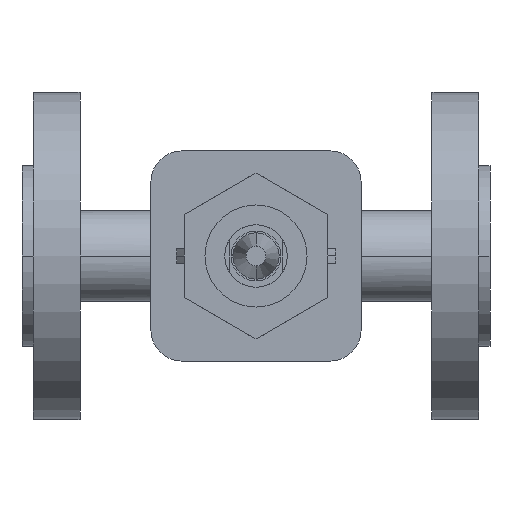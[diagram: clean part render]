
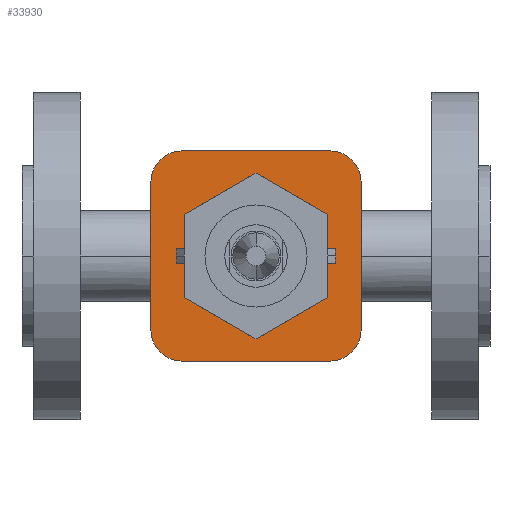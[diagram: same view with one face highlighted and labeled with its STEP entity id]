
A CAD part, front view. The second image highlights one B-rep face of the part: STEP entity #33930.
In plain terms, the highlighted planar face has unit normal (0, -1, 0).
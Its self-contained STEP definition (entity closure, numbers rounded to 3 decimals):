
#9440=CARTESIAN_POINT('',(54.,-62.,0.));
#9450=VERTEX_POINT('',#9440);
#9480=CARTESIAN_POINT('',(75.,-62.,0.));
#9490=DIRECTION('',(0.,-1.,0.));
#9500=DIRECTION('',(-1.,0.,0.));
#9510=AXIS2_PLACEMENT_3D('',#9480,#9490,#9500);
#9520=CIRCLE('',#9510,21.);
#9530=CARTESIAN_POINT('',(96.,-62.,0.));
#9540=VERTEX_POINT('',#9530);
#9550=EDGE_CURVE('',#9540,#9450,#9520,.T.);
#29640=CARTESIAN_POINT('',(41.312,-62.,23.688));
#29650=VERTEX_POINT('',#29640);
#29680=CARTESIAN_POINT('',(41.312,-62.,-11.844));
#29690=DIRECTION('',(0.,0.,-1.));
#29700=VECTOR('',#29690,1.);
#29710=LINE('',#29680,#29700);
#29720=CARTESIAN_POINT('',(41.312,-62.,-23.688));
#29730=VERTEX_POINT('',#29720);
#29740=EDGE_CURVE('',#29650,#29730,#29710,.T.);
#30850=CARTESIAN_POINT('',(51.312,-62.,-23.688));
#30860=DIRECTION('',(0.,-1.,0.));
#30870=DIRECTION('',(0.,0.,-1.));
#30880=AXIS2_PLACEMENT_3D('',#30850,#30860,#30870);
#30890=CIRCLE('',#30880,10.);
#30900=CARTESIAN_POINT('',(51.312,-62.,-33.688));
#30910=VERTEX_POINT('',#30900);
#30920=EDGE_CURVE('',#29730,#30910,#30890,.T.);
#31280=CARTESIAN_POINT('',(98.688,-62.,-33.688));
#31290=VERTEX_POINT('',#31280);
#31340=CARTESIAN_POINT('',(98.688,-62.,-23.688));
#31350=DIRECTION('',(0.,-1.,0.));
#31360=DIRECTION('',(1.,0.,0.));
#31370=AXIS2_PLACEMENT_3D('',#31340,#31350,#31360);
#31380=CIRCLE('',#31370,10.);
#31390=CARTESIAN_POINT('',(108.688,-62.,-23.688));
#31400=VERTEX_POINT('',#31390);
#31410=EDGE_CURVE('',#31290,#31400,#31380,.T.);
#32630=CARTESIAN_POINT('',(108.688,-62.,11.844));
#32640=DIRECTION('',(0.,0.,1.));
#32650=VECTOR('',#32640,1.);
#32660=LINE('',#32630,#32650);
#32670=CARTESIAN_POINT('',(108.688,-62.,23.688));
#32680=VERTEX_POINT('',#32670);
#32690=EDGE_CURVE('',#31400,#32680,#32660,.T.);
#33040=CARTESIAN_POINT('',(51.312,-62.,33.688));
#33050=VERTEX_POINT('',#33040);
#33100=CARTESIAN_POINT('',(51.312,-62.,23.688));
#33110=DIRECTION('',(0.,-1.,0.));
#33120=DIRECTION('',(-1.,0.,0.));
#33130=AXIS2_PLACEMENT_3D('',#33100,#33110,#33120);
#33140=CIRCLE('',#33130,10.);
#33150=EDGE_CURVE('',#33050,#29650,#33140,.T.);
#33550=CARTESIAN_POINT('',(42.25,-62.,0.));
#33560=DIRECTION('',(0.,-1.,0.));
#33570=DIRECTION('',(-1.,0.,0.));
#33580=AXIS2_PLACEMENT_3D('',#33550,#33560,#33570);
#33590=PLANE('',#33580);
#33600=ORIENTED_EDGE('',*,*,#33150,.T.);
#33610=CARTESIAN_POINT('',(46.781,-62.,33.688));
#33620=DIRECTION('',(-1.,0.,0.));
#33630=VECTOR('',#33620,1.);
#33640=LINE('',#33610,#33630);
#33650=CARTESIAN_POINT('',(98.688,-62.,33.688));
#33660=VERTEX_POINT('',#33650);
#33670=EDGE_CURVE('',#33660,#33050,#33640,.T.);
#33680=ORIENTED_EDGE('',*,*,#33670,.T.);
#33690=CARTESIAN_POINT('',(98.688,-62.,23.688));
#33700=DIRECTION('',(0.,-1.,0.));
#33710=DIRECTION('',(0.,0.,1.));
#33720=AXIS2_PLACEMENT_3D('',#33690,#33700,#33710);
#33730=CIRCLE('',#33720,10.);
#33740=EDGE_CURVE('',#32680,#33660,#33730,.T.);
#33750=ORIENTED_EDGE('',*,*,#33740,.T.);
#33760=ORIENTED_EDGE('',*,*,#32690,.T.);
#33770=ORIENTED_EDGE('',*,*,#31410,.T.);
#33780=CARTESIAN_POINT('',(70.469,-62.,-33.688));
#33790=DIRECTION('',(1.,0.,0.));
#33800=VECTOR('',#33790,1.);
#33810=LINE('',#33780,#33800);
#33820=EDGE_CURVE('',#30910,#31290,#33810,.T.);
#33830=ORIENTED_EDGE('',*,*,#33820,.T.);
#33840=ORIENTED_EDGE('',*,*,#30920,.T.);
#33850=ORIENTED_EDGE('',*,*,#29740,.T.);
#33860=EDGE_LOOP('',(#33850,#33840,#33830,#33770,#33760,#33750,#33680,
#33600));
#33870=FACE_OUTER_BOUND('',#33860,.T.);
#33880=EDGE_CURVE('',#9450,#9540,#9520,.T.);
#33890=ORIENTED_EDGE('',*,*,#33880,.F.);
#33900=ORIENTED_EDGE('',*,*,#9550,.F.);
#33910=EDGE_LOOP('',(#33900,#33890));
#33920=FACE_BOUND('',#33910,.T.);
#33930=ADVANCED_FACE('',(#33870,#33920),#33590,.T.);
